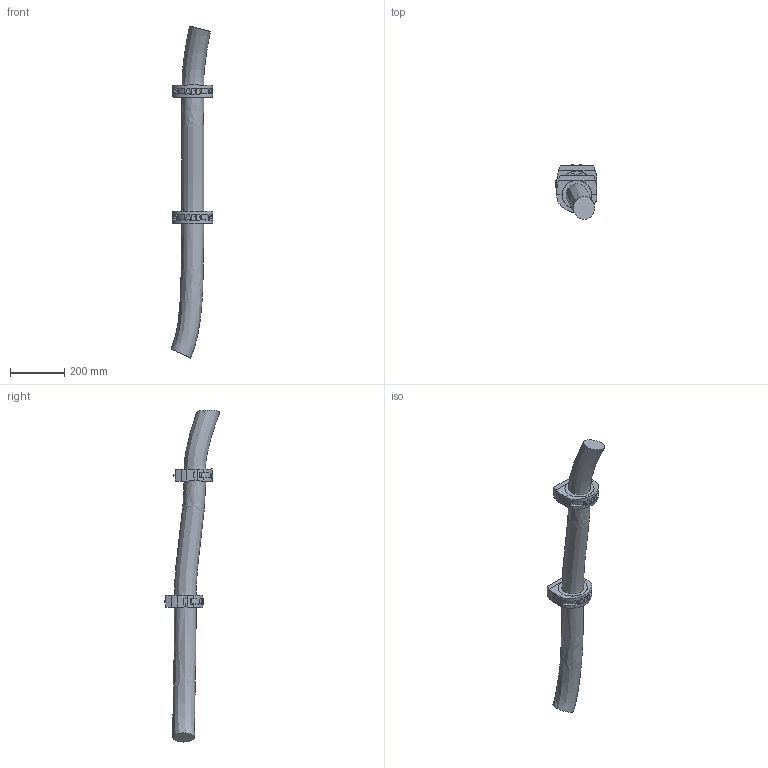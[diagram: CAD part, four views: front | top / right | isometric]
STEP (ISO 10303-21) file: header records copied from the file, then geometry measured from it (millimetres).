
FILE_DESCRIPTION (( 'STEP AP214' ), '1' );
FILE_NAME ('IRB6740-LID-SW_230kg-300_OC_00_LINK02_CABLE.step', '2026-05-07T13:20:36', ( '' ), ( '' ), 'SwSTEP 2.0', 'SolidWorks 2024', '' );
FILE_SCHEMA (( 'AUTOMOTIVE_DESIGN' ));
Length unit declared in the file: millimetre
Products named in the file (1): IRB6740-LID-SW_230kg-300_OC_00_LINK02_CABLE
Bounding box: 154.22 x 203.28 x 1223.42 mm (x, y, z)
Volume: 7132494.1 mm3; surface area: 404596.6 mm2
Topology: 1 solids, 1 shells, 201 faces, 527 edges, 346 vertices
Faces by surface type: plane 136, cylinder 50, bspline 11, cone 4
Full cylindrical faces by diameter (mm): 6.8 x4, 10.22 x8, 107.199 x2
Entity records: 10106 total; most frequent: CARTESIAN_POINT 3306, ORIENTED_EDGE 976, DIRECTION 862, EDGE_CURVE 488, VERTEX_POINT 328, LINE 292, VECTOR 292, AXIS2_PLACEMENT_3D 285
